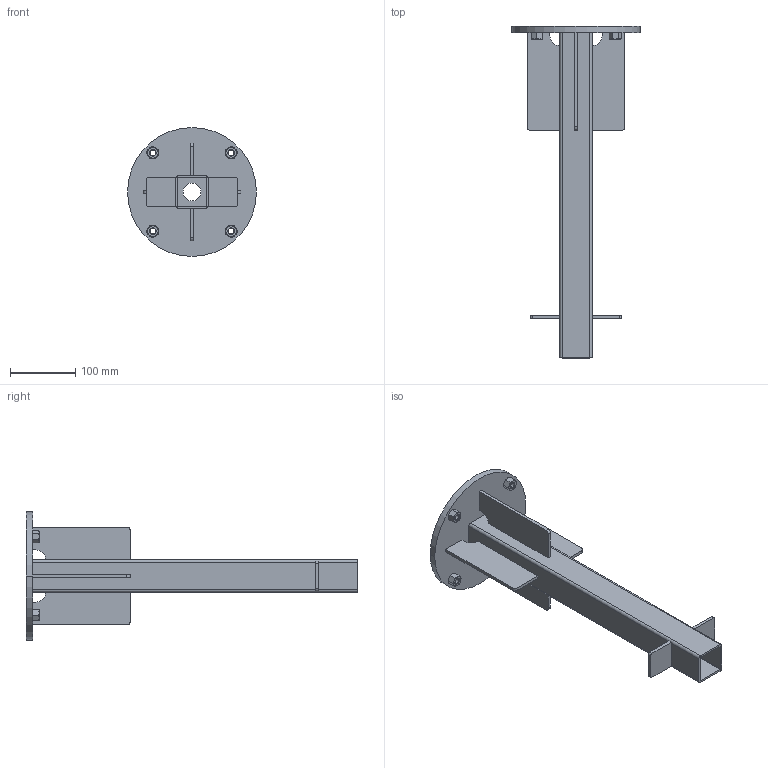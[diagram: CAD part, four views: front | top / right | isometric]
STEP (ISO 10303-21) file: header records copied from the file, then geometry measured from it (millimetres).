
FILE_DESCRIPTION (( 'STEP AP203' ), '1' );
FILE_NAME ('In Ground Anchor.STEP', '2020-06-24T02:42:29', ( '' ), ( '' ), 'SwSTEP 2.0', 'SolidWorks 2017', '' );
FILE_SCHEMA (( 'CONFIG_CONTROL_DESIGN' ));
Length unit declared in the file: millimetre
Products named in the file (6): UM - 110219_Default<As Machined>; UM - 110220; UM - 110221 custom nut; UM - 110217_Default<As Machined>; UM - 110218; In Ground Anchor
Assembly tree (11 placements, depth 3):
  In Ground Anchor
    UM - 110218
      UM - 110217_Default<As Machined>
      UM - 110219_Default<As Machined>
      UM - 110220  x4
      UM - 110221 custom nut  x4
Bounding box: 198 x 510 x 198 mm (x, y, z)
Volume: 744961.8 mm3; surface area: 335406.6 mm2
Topology: 11 solids, 11 shells, 198 faces, 452 edges, 276 vertices
Faces by surface type: plane 86, cone 64, cylinder 48
Entity records: 3463 total; most frequent: CARTESIAN_POINT 579, DIRECTION 463, ORIENTED_EDGE 418, EDGE_CURVE 209, AXIS2_PLACEMENT_3D 176, VERTEX_POINT 132, VECTOR 111, LINE 111
